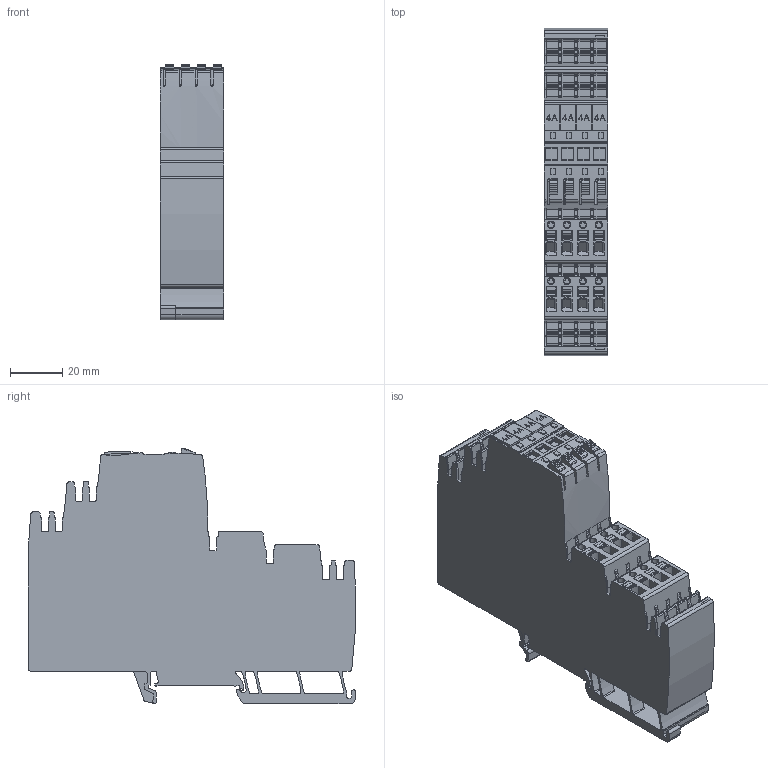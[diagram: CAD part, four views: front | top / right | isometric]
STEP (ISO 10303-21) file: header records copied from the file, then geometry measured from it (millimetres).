
FILE_DESCRIPTION(('CATIA V5R24 STEP','CAx-IF Rec.Pracs.--- Model Styling and Organization---1.2---2011-12-15'),'2;1');
FILE_NAME('\\SRVDE107\Germany\WMC\1_WMC_Input\Step_BU_PA\2080880000.stp','2017-09-05T10:01:24+00:00',('Weidmueller Interface'),('WI'),'CATIA Version 5-6 Release 2014 SP4','CATIA V5 STEP AP214','none');
FILE_SCHEMA(('AUTOMOTIVE_DESIGN { 1 0 10303 214 1 1 1 1 }'));
Length unit declared in the file: millimetre
Products named in the file (1): 2080880000
Bounding box: 24.3 x 125.07 x 97.53 mm (x, y, z)
Volume: 190069.5 mm3; surface area: 45739.4 mm2
Topology: 32 solids, 32 shells, 2865 faces, 8512 edges, 5796 vertices
Faces by surface type: plane 1801, cylinder 923, extrusion 133, torus 8
Entity records: 99746 total; most frequent: CARTESIAN_POINT 22983, ORIENTED_EDGE 17024, DIRECTION 12411, EDGE_CURVE 8512, VECTOR 6176, LINE 6043, VERTEX_POINT 5796, AXIS2_PLACEMENT_3D 4051
